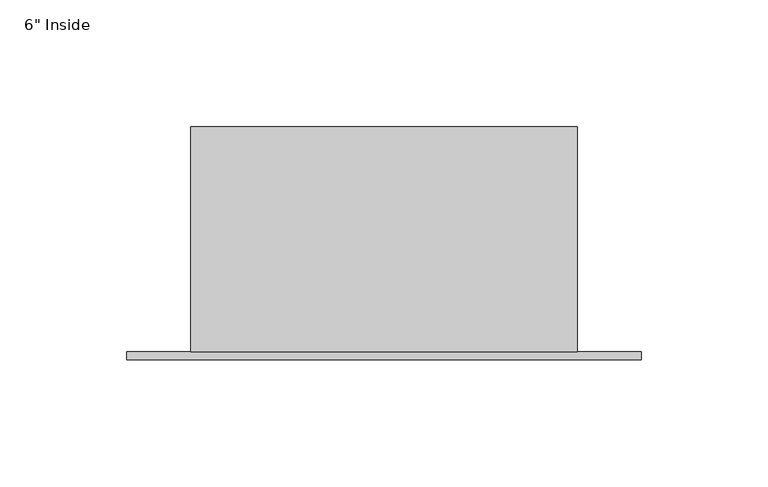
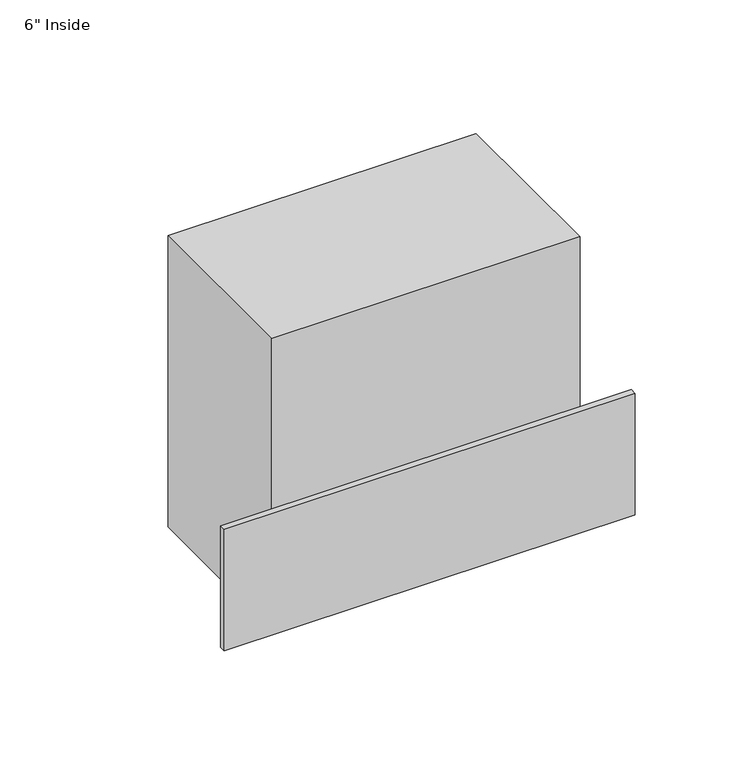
"""IFC4 building model written with IfcOpenShell, lengths in millimetres: proxy geometry."""

from ifc_helpers import new_model, si_unit, origin, origin_with_axes, place, context, project, spatial, polyline, outline, extrude, source, transform, mapped, element, save


def proxy_9fd47af2(model_context):
    return source(origin(), model_context, "Body", "SweptSolid", [
        extrude(outline(polyline([(101.6, -47.625), (-101.6, -47.625), (-101.6, -44.45), (101.6, -44.45), (101.6, -47.625)])), origin_with_axes(), (0.0, 0.0, 1.0), 63.5),
        extrude(outline(polyline([(76.2, 44.45), (76.2, -44.45), (-76.2, -44.45), (-76.2, 44.45), (76.2, 44.45)])), origin_with_axes(), (0.0, 0.0, 1.0), 152.4),
    ])


if __name__ == "__main__":
    model = new_model("IFC4")
    model_context = context("Model", 3, world=origin())
    ifc_project = project(units=[si_unit("LENGTHUNIT", "METRE", prefix="MILLI")], contexts=[model_context])
    site = spatial("IfcSite", under=ifc_project)
    building = spatial("IfcBuilding", under=site)
    placement = place(None, origin())
    proxy_shape = proxy_9fd47af2(model_context)
    element("IfcBuildingElementProxy", 1, Name="Elbow-Wallduct-Wiremold-Vertical : 6\" Inside", ObjectType="Elbow-Wallduct-Wiremold-Vertical : 6\" Inside", at=placement, inside=building, context=model_context, shape_type="MappedRepresentation", body=[
        mapped(proxy_shape, transform((0.0, 0.0, 0.0), x_axis=(1.0, 0.0, 0.0), y_axis=(0.0, 1.0, 0.0), z_axis=(0.0, 0.0, 1.0))),
    ])
    save(model, "model.ifc")
